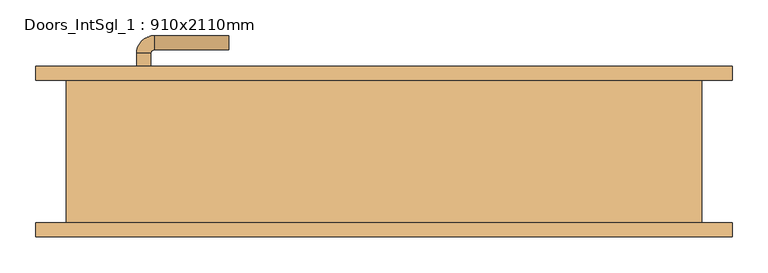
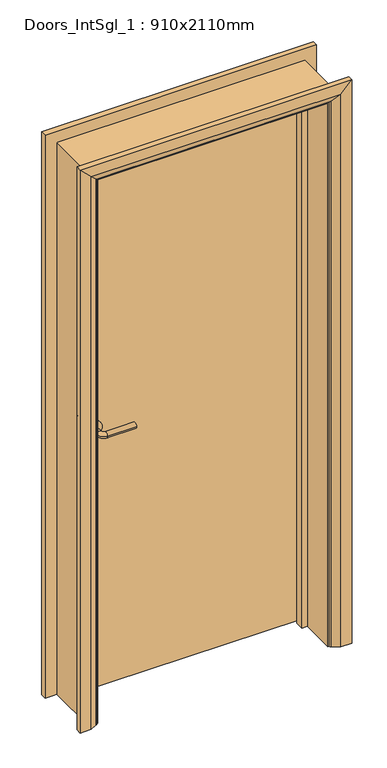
"""IFC4 building model written with IfcOpenShell, lengths in millimetres: door geometry, Doors_IntSgl_1 : 910x2110mm."""

from ifc_helpers import new_model, si_unit, point, frame, frame_2d, origin, place, context, project, spatial, polyline, circle_curve, ellipse_curve, trimmed, segment, composite_curve, outline, extrude, faceted_brep, source, transform, mapped, element, save
from ifc_brep_helpers import plane_surface, cylinder_surface, revolved_surface, advanced_brep


def doors_intsgl_1_910x2110mm_9bfc0318(model_context):
    return source(origin(), model_context, "Body", "SolidModel", [
        advanced_brep(
        [(-348.0, 54.0, 1000.0), (-328.0, 54.0, 1000.0), (-328.0, 24.0, 1000.0), (-348.0, 24.0, 1000.0), (-323.0, 19.0, 1000.0), (-323.0, -1.0, 1000.0), (-218.0, -1.0, 1000.0), (-218.0, 19.0, 1000.0)],
        [
            (0, 1, circle_curve(frame((-338.0, 54.0, 1000.0), z_axis=(0.0, 1.0, 0.0), x_axis=(1.0, 0.0, 0.0)), 10.0)),
            (1, 0, circle_curve(frame((-338.0, 54.0, 1000.0), z_axis=(0.0, 1.0, 0.0), x_axis=(1.0, 0.0, 0.0)), 10.0)),
            (1, 2),
            (2, 3, circle_curve(frame((-338.0, 24.0, 1000.0), z_axis=(0.0, 1.0, 0.0), x_axis=(1.0, 0.0, 0.0)), 10.0)),
            (3, 0),
            (3, 2, circle_curve(frame((-338.0, 24.0, 1000.0), z_axis=(0.0, 1.0, 0.0), x_axis=(1.0, 0.0, 0.0)), 10.0)),
            (4, 5, circle_curve(frame((-323.0, 9.0, 1000.0), z_axis=(-1.0, 0.0, 0.0), x_axis=(0.0, 1.0, 0.0)), 10.0)),
            (5, 3, circle_curve(frame((-323.0, 24.0, 1000.0), z_axis=(0.0, 0.0, -1.0), x_axis=(-1.0, 0.0, 0.0)), 25.0)),
            (2, 4, circle_curve(frame((-323.0, 24.0, 1000.0), z_axis=(0.0, 0.0, 1.0), x_axis=(-1.0, 0.0, 0.0)), 5.0)),
            (5, 4, circle_curve(frame((-323.0, 9.0, 1000.0), z_axis=(-1.0, 0.0, 0.0), x_axis=(0.0, 1.0, 0.0)), 10.0)),
            (6, 7, circle_curve(frame((-218.0, 9.0, 1000.0), z_axis=(1.0, 0.0, 0.0), x_axis=(0.0, 1.0, 0.0)), 10.0)),
            (7, 6, circle_curve(frame((-218.0, 9.0, 1000.0), z_axis=(1.0, 0.0, 0.0), x_axis=(0.0, 1.0, 0.0)), 10.0)),
            (4, 7),
            (6, 5),
        ],
        [
            plane_surface(frame((-338.0, 54.0, 1000.0), z_axis=(0.0, 1.0, 0.0), x_axis=(0.0, 0.0, 1.0))),
            cylinder_surface(frame((-338.0, 54.0, 1000.0), z_axis=(0.0, 1.0, 0.0), x_axis=(1.0, 0.0, 0.0)), 10.0),
            revolved_surface(trimmed(ellipse_curve(frame((-338.0, 24.0, 1000.0), z_axis=(0.0, -1.0, 0.0), x_axis=(1.0, 0.0, 0.0)), 10.0, 10.0), [point((-348.0, 24.0, 1000.0))], [point((-328.0, 24.0, 1000.0))], True, "CARTESIAN"), (-323.0, 24.0, 1000.0), (0.0, 0.0, -1.0)),
            revolved_surface(trimmed(ellipse_curve(frame((-338.0, 24.0, 1000.0), z_axis=(0.0, -1.0, 0.0), x_axis=(1.0, 0.0, 0.0)), 10.0, 10.0), [point((-328.0, 24.0, 1000.0))], [point((-348.0, 24.0, 1000.0))], True, "CARTESIAN"), (-323.0, 24.0, 1000.0), (0.0, 0.0, -1.0)),
            plane_surface(frame((-218.0, 9.0, 1000.0), z_axis=(1.0, 0.0, 0.0), x_axis=(0.0, 0.0, 1.0))),
            cylinder_surface(frame((-323.0, 9.0, 1000.0), z_axis=(-1.0, 0.0, 0.0), x_axis=(0.0, 1.0, 0.0)), 10.0),
        ],
        [
            (0, [[1, 2]]),
            (1, [[3, 4, 5, -2]]),
            (1, [[-5, 6, -3, -1]]),
            (2, [[7, 8, -4, 9]]),
            (3, [[10, -9, -6, -8]]),
            (4, [[11, 12]]),
            (5, [[13, -11, 14, -7]]),
            (5, [[-14, -12, -13, -10]]),
        ],
    ),
        extrude(outline(composite_curve([segment(trimmed(circle_curve(frame_2d((1000.0, -340.5)), 30.0), [point((1000.0, -370.5))], [point((1000.0, -310.5))], False, "CARTESIAN"), True, "CONTINUOUS"), segment(trimmed(circle_curve(frame_2d((1000.0, -340.5)), 30.0), [point((1000.0, -310.5))], [point((1000.0, -370.5))], False, "CARTESIAN"), True, "CONTINUOUS")], self_intersect=False)), frame((0.0, 54.0, 0.0), z_axis=(0.0, 1.0, 0.0), x_axis=(0.0, 0.0, 1.0)), (0.0, 0.0, 1.0), 8.0),
        advanced_brep(
        [(-348.0, 108.0, 1000.0), (-328.0, 108.0, 1000.0), (-348.0, 138.0, 1000.0), (-328.0, 138.0, 1000.0), (-323.0, 143.0, 1000.0), (-323.0, 163.0, 1000.0), (-218.0, 163.0, 1000.0), (-218.0, 143.0, 1000.0)],
        [
            (0, 1, circle_curve(frame((-338.0, 108.0, 1000.0), z_axis=(0.0, -1.0, 0.0), x_axis=(1.0, 0.0, 0.0)), 10.0)),
            (1, 0, circle_curve(frame((-338.0, 108.0, 1000.0), z_axis=(0.0, -1.0, 0.0), x_axis=(1.0, 0.0, 0.0)), 10.0)),
            (0, 2),
            (2, 3, circle_curve(frame((-338.0, 138.0, 1000.0), z_axis=(0.0, -1.0, 0.0), x_axis=(1.0, 0.0, 0.0)), 10.0)),
            (3, 1),
            (3, 2, circle_curve(frame((-338.0, 138.0, 1000.0), z_axis=(0.0, -1.0, 0.0), x_axis=(1.0, 0.0, 0.0)), 10.0)),
            (4, 3, circle_curve(frame((-323.0, 138.0, 1000.0), z_axis=(0.0, 0.0, 1.0), x_axis=(-1.0, 0.0, 0.0)), 5.0)),
            (2, 5, circle_curve(frame((-323.0, 138.0, 1000.0), z_axis=(0.0, 0.0, -1.0), x_axis=(-1.0, 0.0, 0.0)), 25.0)),
            (5, 4, circle_curve(frame((-323.0, 153.0, 1000.0), z_axis=(-1.0, 0.0, 0.0), x_axis=(0.0, -1.0, 0.0)), 10.0)),
            (4, 5, circle_curve(frame((-323.0, 153.0, 1000.0), z_axis=(-1.0, 0.0, 0.0), x_axis=(0.0, -1.0, 0.0)), 10.0)),
            (6, 7, circle_curve(frame((-218.0, 153.0, 1000.0), z_axis=(1.0, 0.0, 0.0), x_axis=(0.0, -1.0, 0.0)), 10.0)),
            (7, 6, circle_curve(frame((-218.0, 153.0, 1000.0), z_axis=(1.0, 0.0, 0.0), x_axis=(0.0, -1.0, 0.0)), 10.0)),
            (5, 6),
            (7, 4),
        ],
        [
            plane_surface(frame((-338.0, 108.0, 1000.0), z_axis=(0.0, -1.0, 0.0), x_axis=(0.0, 0.0, 1.0))),
            cylinder_surface(frame((-338.0, 108.0, 1000.0), z_axis=(0.0, -1.0, 0.0), x_axis=(1.0, 0.0, 0.0)), 10.0),
            revolved_surface(trimmed(ellipse_curve(frame((-338.0, 138.0, 1000.0), z_axis=(0.0, -1.0, 0.0), x_axis=(1.0, 0.0, 0.0)), 10.0, 10.0), [point((-348.0, 138.0, 1000.0))], [point((-328.0, 138.0, 1000.0))], True, "CARTESIAN"), (-323.0, 138.0, 1000.0), (0.0, 0.0, -1.0)),
            revolved_surface(trimmed(ellipse_curve(frame((-338.0, 138.0, 1000.0), z_axis=(0.0, -1.0, 0.0), x_axis=(1.0, 0.0, 0.0)), 10.0, 10.0), [point((-328.0, 138.0, 1000.0))], [point((-348.0, 138.0, 1000.0))], True, "CARTESIAN"), (-323.0, 138.0, 1000.0), (0.0, 0.0, -1.0)),
            plane_surface(frame((-218.0, 153.0, 1000.0), z_axis=(1.0, 0.0, 0.0), x_axis=(0.0, 0.0, 1.0))),
            cylinder_surface(frame((-323.0, 153.0, 1000.0), z_axis=(-1.0, 0.0, 0.0), x_axis=(0.0, -1.0, 0.0)), 10.0),
        ],
        [
            (0, [[1, 2]]),
            (1, [[-1, 3, 4, 5]]),
            (1, [[-2, -5, 6, -3]]),
            (2, [[7, -4, 8, 9]]),
            (3, [[-8, -6, -7, 10]]),
            (4, [[11, 12]]),
            (5, [[-9, 13, -12, 14]]),
            (5, [[-10, -14, -11, -13]]),
        ],
    ),
        extrude(outline(composite_curve([segment(trimmed(circle_curve(frame_2d((1000.0, -340.5)), 30.0), [point((1000.0, -370.5))], [point((1000.0, -310.5))], False, "CARTESIAN"), True, "CONTINUOUS"), segment(trimmed(circle_curve(frame_2d((1000.0, -340.5)), 30.0), [point((1000.0, -310.5))], [point((1000.0, -370.5))], False, "CARTESIAN"), True, "CONTINUOUS")], self_intersect=False)), frame((0.0, 100.0, 0.0), z_axis=(0.0, 1.0, 0.0), x_axis=(0.0, 0.0, 1.0)), (0.0, 0.0, 1.0), 8.0),
        extrude(outline(polyline([(413.0, 62.0), (-413.0, 62.0), (-413.0, 100.0), (413.0, 100.0), (413.0, 62.0)])), frame((0.0, 0.0, 8.0), z_axis=(0.0, 0.0, 1.0), x_axis=(1.0, 0.0, 0.0)), (0.0, 0.0, 1.0), 2060.0),
        advanced_brep(
        [(490.0, 120.0, 0.0), (490.0, 100.0, 0.0), (420.0, 100.0, 0.0), (424.0, 106.0, 0.0), (450.0, 120.0, 0.0), (490.0, 120.0, 2145.0), (490.0, 100.0, 2145.0), (-490.0, 100.0, 2145.0), (-490.0, 100.0, 0.0), (-420.0, 100.0, 0.0), (-420.0, 100.0, 2075.0), (420.0, 100.0, 2075.0), (424.0, 106.0, 2079.0), (450.0, 120.0, 2105.0), (-450.0, 120.0, 2105.0), (-450.0, 120.0, 0.0), (-490.0, 120.0, 0.0), (-490.0, 120.0, 2145.0), (-424.0, 106.0, 0.0), (-424.0, 106.0, 2079.0)],
        [
            (0, 1),
            (1, 2),
            (2, 3, circle_curve(frame((428.0, 99.0, 0.0), z_axis=(0.0, 0.0, -1.0), x_axis=(1.0, 0.0, 0.0)), 8.0622577)),
            (3, 4),
            (4, 0),
            (0, 5),
            (5, 6),
            (6, 1),
            (6, 7),
            (7, 8),
            (8, 9),
            (9, 10),
            (10, 11),
            (11, 2),
            (11, 12, ellipse_curve(frame((428.0, 99.0, 2083.0), z_axis=(0.7071067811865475, 0.0, -0.7071067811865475), x_axis=(-0.7071067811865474, 0.0, -0.7071067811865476)), 11.4017543, 8.0622577)),
            (12, 3),
            (12, 13),
            (13, 4),
            (13, 14),
            (14, 15),
            (15, 16),
            (16, 17),
            (17, 5),
            (7, 17),
            (16, 8),
            (15, 18),
            (18, 9, circle_curve(frame((-428.0, 99.0, 0.0), z_axis=(0.0, 0.0, -1.0), x_axis=(-1.0, 0.0, 0.0)), 8.0622577)),
            (19, 10, ellipse_curve(frame((-428.0, 99.0, 2083.0), z_axis=(-0.7071067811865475, 0.0, -0.7071067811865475), x_axis=(-0.7071067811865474, 0.0, 0.7071067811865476)), 11.4017543, 8.0622577)),
            (18, 19),
            (14, 19),
            (19, 12),
        ],
        [
            plane_surface(frame((420.0, 100.0, 0.0), z_axis=(0.0, 0.0, -1.0), x_axis=(0.0, -1.0, 0.0))),
            plane_surface(frame((490.0, 120.0, 0.0), z_axis=(1.0, 0.0, 0.0), x_axis=(0.0, 0.0, 1.0))),
            plane_surface(frame((490.0, 100.0, 0.0), z_axis=(0.0, -1.0, 0.0), x_axis=(0.0, 0.0, 1.0))),
            cylinder_surface(frame((428.0, 99.0, 0.0), z_axis=(0.0, 0.0, -1.0), x_axis=(1.0, 0.0, 0.0)), 8.0622577),
            plane_surface(frame((424.0, 106.0, 0.0), z_axis=(-0.4740998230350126, 0.880471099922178, 0.0), x_axis=(0.0, 0.0, 1.0))),
            plane_surface(frame((450.0, 120.0, 0.0), z_axis=(0.0, 1.0, 0.0), x_axis=(0.0, 0.0, 1.0))),
            plane_surface(frame((-490.0, 120.0, 2145.0), z_axis=(-1.0, 0.0, 0.0), x_axis=(0.0, 0.0, -1.0))),
            plane_surface(frame((-420.0, 100.0, 0.0), z_axis=(0.0, 0.0, -1.0), x_axis=(0.0, -1.0, 0.0))),
            cylinder_surface(frame((-428.0, 99.0, 2075.0), z_axis=(0.0, 0.0, 1.0), x_axis=(-1.0, 0.0, 0.0)), 8.0622577),
            plane_surface(frame((-424.0, 106.0, 2079.0), z_axis=(0.47409982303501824, 0.8804710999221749, 0.0), x_axis=(0.0, 0.0, -1.0))),
            plane_surface(frame((490.0, 120.0, 2145.0), z_axis=(0.0, 0.0, 1.0), x_axis=(-1.0, 0.0, 0.0))),
            cylinder_surface(frame((420.0, 99.0, 2083.0), z_axis=(1.0, 0.0, 0.0), x_axis=(0.0, 0.0, 1.0)), 8.0622577),
            plane_surface(frame((424.0, 106.0, 2079.0), z_axis=(0.0, 0.8804710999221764, -0.4740998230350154), x_axis=(-1.0, 0.0, 0.0))),
        ],
        [
            (0, [[1, 2, 3, 4, 5]]),
            (1, [[-1, 6, 7, 8]]),
            (2, [[-2, -8, 9, 10, 11, 12, 13, 14]]),
            (3, [[-3, -14, 15, 16]]),
            (4, [[-4, -16, 17, 18]]),
            (5, [[-5, -18, 19, 20, 21, 22, 23, -6]]),
            (6, [[24, -22, 25, -10]]),
            (7, [[-21, 26, 27, -11, -25]]),
            (8, [[28, -12, -27, 29]]),
            (9, [[30, -29, -26, -20]]),
            (10, [[-7, -23, -24, -9]]),
            (11, [[-15, -13, -28, 31]]),
            (12, [[-17, -31, -30, -19]]),
        ],
    ),
        extrude(outline(polyline([(0.0, -415.0), (0.0, -396.0), (2051.0, -396.0), (2051.0, 396.0), (0.0, 396.0), (0.0, 415.0), (2070.0, 415.0), (2070.0, -415.0), (0.0, -415.0)])), frame((0.0, 28.0, 0.0), z_axis=(0.0, 1.0, 0.0), x_axis=(0.0, 0.0, 1.0)), (0.0, 0.0, 1.0), 32.0),
        advanced_brep(
        [(-490.0, -120.0, 0.0), (-490.0, -100.0, 0.0), (-420.0, -100.0, 0.0), (-424.0, -106.0, 0.0), (-450.0, -120.0, 0.0), (-490.0, -120.0, 2145.0), (-490.0, -100.0, 2145.0), (-420.0, -100.0, 2075.0), (-424.0, -106.0, 2079.0), (-450.0, -120.0, 2105.0), (490.0, -120.0, 0.0), (450.0, -120.0, 0.0), (424.0, -106.0, 0.0), (420.0, -100.0, 0.0), (490.0, -100.0, 0.0), (490.0, -120.0, 2145.0), (450.0, -120.0, 2105.0), (424.0, -106.0, 2079.0), (420.0, -100.0, 2075.0), (490.0, -100.0, 2145.0)],
        [
            (0, 1),
            (1, 2),
            (2, 3, circle_curve(frame((-428.0, -99.0, 0.0), z_axis=(0.0, 0.0, -1.0), x_axis=(-1.0, 0.0, 0.0)), 8.0622577)),
            (3, 4),
            (4, 0),
            (0, 5),
            (5, 6),
            (6, 1),
            (6, 7),
            (7, 2),
            (7, 8, ellipse_curve(frame((-428.0, -99.0, 2083.0), z_axis=(-0.7071067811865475, 0.0, -0.7071067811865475), x_axis=(0.7071067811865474, 0.0, -0.7071067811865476)), 11.4017543, 8.0622577)),
            (8, 3),
            (8, 9),
            (9, 4),
            (9, 5),
            (10, 11),
            (11, 12),
            (12, 13, circle_curve(frame((428.0, -99.0, 0.0), z_axis=(0.0, 0.0, -1.0), x_axis=(1.0, 0.0, 0.0)), 8.0622577)),
            (13, 14),
            (14, 10),
            (15, 16),
            (16, 11),
            (10, 15),
            (16, 17),
            (17, 12),
            (17, 18, ellipse_curve(frame((428.0, -99.0, 2083.0), z_axis=(0.7071067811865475, 0.0, -0.7071067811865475), x_axis=(0.7071067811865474, 0.0, 0.7071067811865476)), 11.4017543, 8.0622577)),
            (18, 13),
            (18, 19),
            (19, 14),
            (19, 15),
            (5, 15),
            (19, 6),
            (18, 7),
            (17, 8),
            (16, 9),
        ],
        [
            plane_surface(frame((-420.0, -172.8010989, 0.0), z_axis=(0.0, 0.0, -1.0), x_axis=(1.0, 0.0, 0.0))),
            plane_surface(frame((-490.0, -120.0, 0.0), z_axis=(-1.0, 0.0, 0.0), x_axis=(0.0, 0.0, 1.0))),
            plane_surface(frame((-490.0, -100.0, 0.0), z_axis=(0.0, 1.0, 0.0), x_axis=(0.0, 0.0, 1.0))),
            cylinder_surface(frame((-428.0, -99.0, 0.0), z_axis=(0.0, 0.0, -1.0), x_axis=(-1.0, 0.0, 0.0)), 8.0622577),
            plane_surface(frame((-424.0, -106.0, 0.0), z_axis=(0.4740998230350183, -0.8804710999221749, 0.0), x_axis=(0.0, 0.0, 1.0))),
            plane_surface(frame((-450.0, -120.0, 0.0), z_axis=(0.0, -1.0, 0.0), x_axis=(0.0, 0.0, 1.0))),
            plane_surface(frame((420.0, -172.8010989, 0.0), z_axis=(0.0, 0.0, -1.0), x_axis=(-1.0, 0.0, 0.0))),
            plane_surface(frame((450.0, -120.0, 2105.0), z_axis=(0.0, -1.0, 0.0), x_axis=(0.0, 0.0, -1.0))),
            plane_surface(frame((424.0, -106.0, 2079.0), z_axis=(-0.4740998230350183, -0.8804710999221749, 0.0), x_axis=(0.0, 0.0, -1.0))),
            cylinder_surface(frame((428.0, -99.0, 2075.0), z_axis=(0.0, 0.0, 1.0), x_axis=(1.0, 0.0, 0.0)), 8.0622577),
            plane_surface(frame((490.0, -100.0, 2145.0), z_axis=(0.0, 1.0, 0.0), x_axis=(0.0, 0.0, -1.0))),
            plane_surface(frame((490.0, -120.0, 2145.0), z_axis=(1.0, 0.0, 0.0), x_axis=(0.0, 0.0, -1.0))),
            plane_surface(frame((-490.0, -120.0, 2145.0), z_axis=(0.0, 0.0, 1.0), x_axis=(1.0, 0.0, 0.0))),
            plane_surface(frame((-490.0, -100.0, 2145.0), z_axis=(0.0, 1.0, 0.0), x_axis=(1.0, 0.0, 0.0))),
            cylinder_surface(frame((-420.0, -99.0, 2083.0), z_axis=(-1.0, 0.0, 0.0), x_axis=(0.0, 0.0, 1.0)), 8.0622577),
            plane_surface(frame((-424.0, -106.0, 2079.0), z_axis=(0.0, -0.8804710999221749, -0.4740998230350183), x_axis=(1.0, 0.0, 0.0))),
            plane_surface(frame((-450.0, -120.0, 2105.0), z_axis=(0.0, -1.0, 0.0), x_axis=(1.0, 0.0, 0.0))),
        ],
        [
            (0, [[1, 2, 3, 4, 5]]),
            (1, [[-1, 6, 7, 8]]),
            (2, [[-2, -8, 9, 10]]),
            (3, [[-3, -10, 11, 12]]),
            (4, [[-4, -12, 13, 14]]),
            (5, [[-5, -14, 15, -6]]),
            (6, [[16, 17, 18, 19, 20]]),
            (7, [[21, 22, -16, 23]]),
            (8, [[24, 25, -17, -22]]),
            (9, [[26, 27, -18, -25]]),
            (10, [[28, 29, -19, -27]]),
            (11, [[30, -23, -20, -29]]),
            (12, [[-7, 31, -30, 32]]),
            (13, [[-9, -32, -28, 33]]),
            (14, [[-11, -33, -26, 34]]),
            (15, [[-13, -34, -24, 35]]),
            (16, [[-15, -35, -21, -31]]),
        ],
    ),
        faceted_brep([(-415.0, 100.0, 0.0), (-415.0, -100.0, 0.0), (-447.0, -100.0, 0.0), (-447.0, 100.0, 0.0), (-415.0, 100.0, 2070.0), (-415.0, -100.0, 2070.0), (-447.0, -100.0, 2102.0), (-447.0, 100.0, 2102.0), (415.0, 100.0, 0.0), (447.0, 100.0, 0.0), (447.0, -100.0, 0.0), (415.0, -100.0, 0.0), (415.0, 100.0, 2070.0), (447.0, 100.0, 2102.0), (447.0, -100.0, 2102.0), (415.0, -100.0, 2070.0)], [[[0, 1, 2, 3]], [[1, 0, 4, 5]], [[2, 1, 5, 6]], [[3, 2, 6, 7]], [[0, 3, 7, 4]], [[8, 9, 10, 11]], [[12, 13, 9, 8]], [[13, 14, 10, 9]], [[14, 15, 11, 10]], [[15, 12, 8, 11]], [[5, 4, 12, 15]], [[6, 5, 15, 14]], [[7, 6, 14, 13]], [[4, 7, 13, 12]]]),
    ])


if __name__ == "__main__":
    model = new_model("IFC4")
    model_context = context("Model", 3, world=origin())
    ifc_project = project(units=[si_unit("LENGTHUNIT", "METRE", prefix="MILLI")], contexts=[model_context])
    site = spatial("IfcSite", under=ifc_project)
    building = spatial("IfcBuilding", under=site)
    placement = place(None, origin())
    doors_intsgl_1_910x2110mm_shape = doors_intsgl_1_910x2110mm_9bfc0318(model_context)
    element("IfcDoor", 1, ObjectType="Doors_IntSgl_1 : 910x2110mm", at=placement, inside=building, context=model_context, shape_type="MappedRepresentation", body=[
        mapped(doors_intsgl_1_910x2110mm_shape, transform((0.0, 0.0, 0.0), x_axis=(1.0, 0.0, 0.0), y_axis=(0.0, 1.0, 0.0), z_axis=(0.0, 0.0, 1.0))),
    ])
    save(model, "model.ifc")
